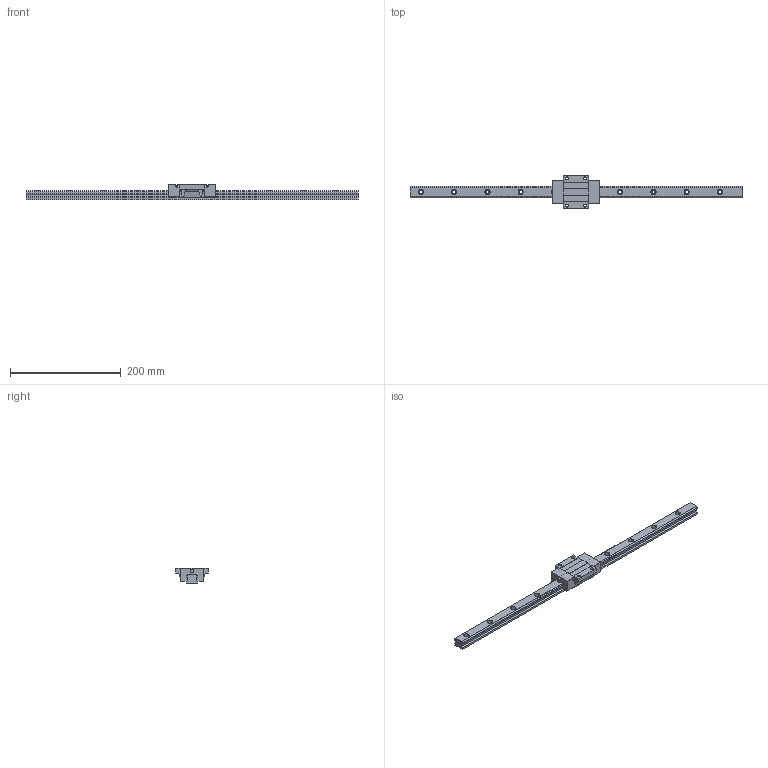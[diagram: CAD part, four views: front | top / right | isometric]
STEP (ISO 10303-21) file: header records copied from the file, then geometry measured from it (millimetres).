
FILE_DESCRIPTION (( 'STEP AP203' ), '1' );
FILE_NAME ('TRS20FN-DU.STEP', '2024-07-11T02:29:15', ( '' ), ( '' ), 'SwSTEP 2.0', 'SolidWorks 2022', '' );
FILE_SCHEMA (( 'CONFIG_CONTROL_DESIGN' ));
Length unit declared in the file: millimetre
Products named in the file (1): TRS20FN-DU
Bounding box: 600 x 59 x 28 mm (x, y, z)
Volume: 235949 mm3; surface area: 67013.6 mm2
Topology: 2 solids, 2 shells, 234 faces, 618 edges, 400 vertices
Faces by surface type: cylinder 124, plane 106, sphere 4
Entity records: 7573 total; most frequent: CARTESIAN_POINT 1509, DIRECTION 1284, ORIENTED_EDGE 1228, EDGE_CURVE 614, AXIS2_PLACEMENT_3D 459, VERTEX_POINT 400, VECTOR 366, LINE 366
